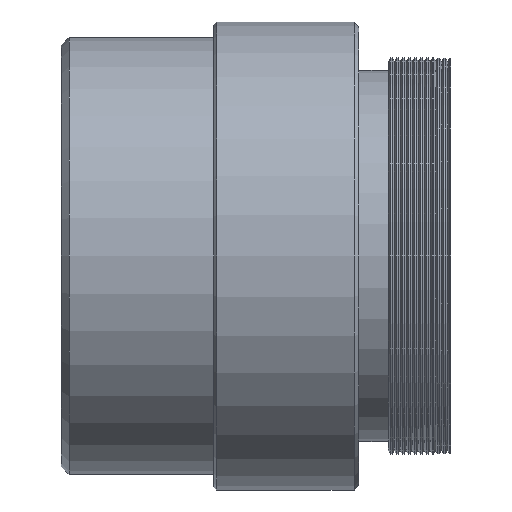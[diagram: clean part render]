
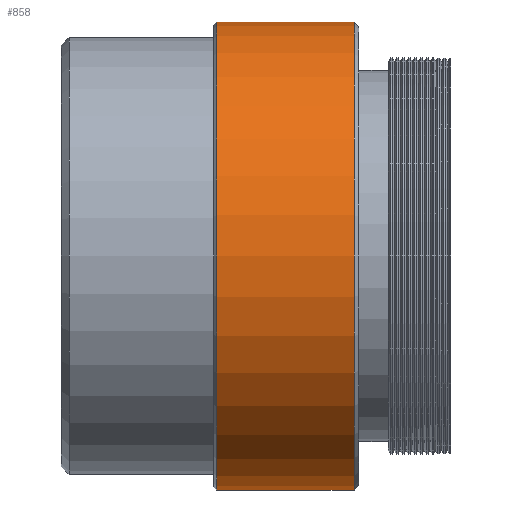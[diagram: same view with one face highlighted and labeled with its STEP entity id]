
A CAD part, front view. The second image highlights one B-rep face of the part: STEP entity #858.
In plain terms, the highlighted cylindrical face has radius 15 mm (diameter 30 mm), a full revolution.
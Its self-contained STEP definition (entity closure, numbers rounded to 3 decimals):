
#85=FACE_BOUND('',#259,.T.);
#159=FACE_OUTER_BOUND('',#258,.T.);
#258=EDGE_LOOP('',(#628));
#259=EDGE_LOOP('',(#629));
#382=CIRCLE('',#964,15.);
#383=CIRCLE('',#965,15.);
#456=VERTEX_POINT('',#1441);
#457=VERTEX_POINT('',#1443);
#530=EDGE_CURVE('',#456,#456,#382,.T.);
#531=EDGE_CURVE('',#457,#457,#383,.T.);
#628=ORIENTED_EDGE('',*,*,#530,.F.);
#629=ORIENTED_EDGE('',*,*,#531,.T.);
#738=CYLINDRICAL_SURFACE('',#963,15.);
#858=ADVANCED_FACE('',(#159,#85),#738,.T.);
#963=AXIS2_PLACEMENT_3D('',#1440,#1164,#1165);
#964=AXIS2_PLACEMENT_3D('',#1442,#1166,#1167);
#965=AXIS2_PLACEMENT_3D('',#1444,#1168,#1169);
#1164=DIRECTION('center_axis',(-1.,0.,0.));
#1165=DIRECTION('ref_axis',(0.,0.,1.));
#1166=DIRECTION('center_axis',(-1.,0.,0.));
#1167=DIRECTION('ref_axis',(0.,0.,1.));
#1168=DIRECTION('center_axis',(-1.,0.,0.));
#1169=DIRECTION('ref_axis',(0.,0.,1.));
#1440=CARTESIAN_POINT('Origin',(-12.524,0.,0.));
#1441=CARTESIAN_POINT('',(-9.1,0.,-15.));
#1442=CARTESIAN_POINT('Origin',(-9.1,0.,0.));
#1443=CARTESIAN_POINT('',(-0.3,0.,15.));
#1444=CARTESIAN_POINT('Origin',(-0.3,0.,0.));
